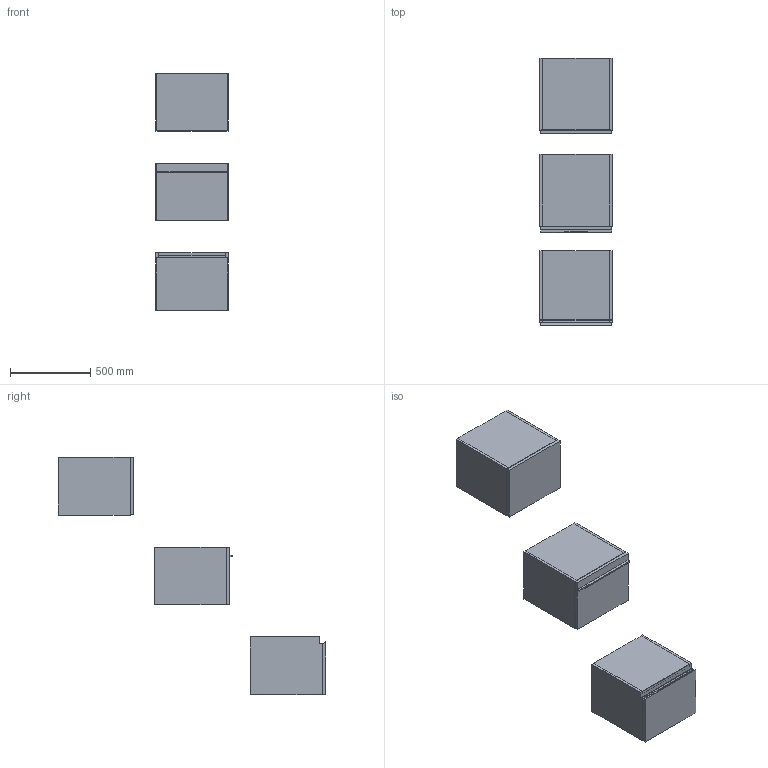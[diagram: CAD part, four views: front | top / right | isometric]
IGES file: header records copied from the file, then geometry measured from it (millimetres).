
Start section: Data from Parasolid IGES Translator 19.0.9, Copyright(c) 2006 Siemens PL M Software. All Rights Reserved.
Global section: file name: noorth-SI-H 36 D 47 W 45_8349.igs; native system: By Siemens PLM Incorporated; preprocessor: XPlus GENERIC/IGES 19.0.9; author: Noname; organization: Noname; date: 20200601.093353; units: metre
Bounding box: 450.01 x 1669.1 x 1480 mm (x, y, z)
Volume: 43480349.9 mm3; surface area: 6429029.4 mm2
Topology: 20 solids, 20 shells, 178 faces, 382 edges, 234 vertices
Faces by surface type: plane 134, extrusion 16, bspline 16, cylinder 12
